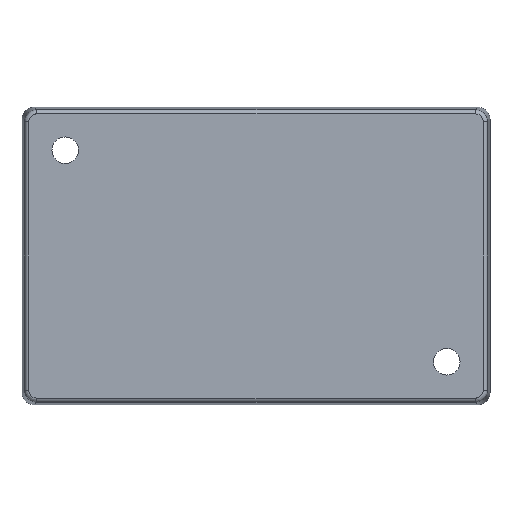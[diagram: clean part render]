
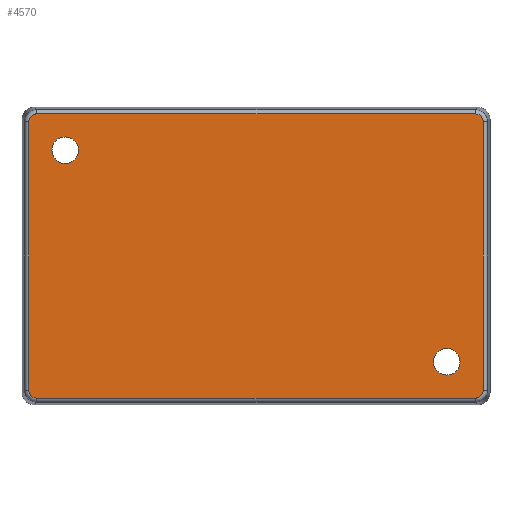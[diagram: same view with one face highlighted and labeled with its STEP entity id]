
A CAD part, front view. The second image highlights one B-rep face of the part: STEP entity #4570.
In plain terms, the highlighted planar face has unit normal (0, -1, 0).
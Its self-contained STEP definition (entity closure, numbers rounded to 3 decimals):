
#6 = FACE_OUTER_BOUND ( 'NONE', #5520, .T. ) ;
#261 = CARTESIAN_POINT ( 'NONE',  ( -23.6, -12.7, 13.08 ) ) ;
#565 = CARTESIAN_POINT ( 'NONE',  ( 23.6, -12.7, -13.08 ) ) ;
#599 = CARTESIAN_POINT ( 'NONE',  ( -27.131, -12.7, -17.58 ) ) ;
#619 = CARTESIAN_POINT ( 'NONE',  ( -28.13, -12.7, -16.581 ) ) ;
#706 = VERTEX_POINT ( 'NONE', #6199 ) ;
#769 = EDGE_CURVE ( 'NONE', #706, #5615, #6333, .T. ) ;
#779 = AXIS2_PLACEMENT_3D ( 'NONE', #2587, #5365, #1590 ) ;
#926 = CARTESIAN_POINT ( 'NONE',  ( -27.131, -12.7, 17.58 ) ) ;
#1197 = AXIS2_PLACEMENT_3D ( 'NONE', #4663, #8701, #3739 ) ;
#1340 = CARTESIAN_POINT ( 'NONE',  ( 28.13, -12.7, -16.581 ) ) ;
#1396 = EDGE_CURVE ( 'NONE', #11036, #5822, #6289, .T. ) ;
#1590 = DIRECTION ( 'NONE',  ( 0., 0., 1. ) ) ;
#1627 = CARTESIAN_POINT ( 'NONE',  ( 23.6, -12.7, -11.43 ) ) ;
#1695 = DIRECTION ( 'NONE',  ( 0., 1., 0. ) ) ;
#1747 = VECTOR ( 'NONE', #9764, 1000. ) ;
#1832 = LINE ( 'NONE', #11778, #1747 ) ;
#1897 = ORIENTED_EDGE ( 'NONE', *, *, #3756, .T. ) ;
#1905 = ORIENTED_EDGE ( 'NONE', *, *, #2387, .T. ) ;
#1975 = CARTESIAN_POINT ( 'NONE',  ( 27.131, -12.7, 17.58 ) ) ;
#1995 = ORIENTED_EDGE ( 'NONE', *, *, #2138, .T. ) ;
#2138 = EDGE_CURVE ( 'NONE', #12736, #9561, #12841, .T. ) ;
#2223 = EDGE_CURVE ( 'NONE', #12736, #5632, #6406, .T. ) ;
#2376 = ORIENTED_EDGE ( 'NONE', *, *, #769, .F. ) ;
#2377 = EDGE_CURVE ( 'NONE', #5273, #5615, #1832, .T. ) ;
#2387 = EDGE_CURVE ( 'NONE', #4043, #5168, #7679, .T. ) ;
#2587 = CARTESIAN_POINT ( 'NONE',  ( -23.6, -12.7, 13.08 ) ) ;
#2691 = CARTESIAN_POINT ( 'NONE',  ( -27.131, -12.7, 17.58 ) ) ;
#2776 =( BOUNDED_CURVE ( )  B_SPLINE_CURVE ( 3, ( #1975, #9316, #11050, #12243 ),
 .UNSPECIFIED., .F., .F. ) 
 B_SPLINE_CURVE_WITH_KNOTS ( ( 4, 4 ),
 ( 5.498, 7.068 ),
 .UNSPECIFIED. ) 
 CURVE ( )  GEOMETRIC_REPRESENTATION_ITEM ( )  RATIONAL_B_SPLINE_CURVE ( ( 1., 0.805, 0.805, 1. ) ) 
 REPRESENTATION_ITEM ( '' )  );
#2824 = DIRECTION ( 'NONE',  ( 0., 0., 1. ) ) ;
#3075 = PLANE ( 'NONE',  #8327 ) ;
#3601 = CARTESIAN_POINT ( 'NONE',  ( 28.617, -12.7, -17.58 ) ) ;
#3630 =( BOUNDED_CURVE ( )  B_SPLINE_CURVE ( 3, ( #8295, #5117, #9148, #5261 ),
 .UNSPECIFIED., .F., .F. ) 
 B_SPLINE_CURVE_WITH_KNOTS ( ( 4, 4 ),
 ( 5.498, 7.068 ),
 .UNSPECIFIED. ) 
 CURVE ( )  GEOMETRIC_REPRESENTATION_ITEM ( )  RATIONAL_B_SPLINE_CURVE ( ( 1., 0.805, 0.805, 1. ) ) 
 REPRESENTATION_ITEM ( '' )  );
#3676 = CIRCLE ( 'NONE', #9791, 1.65 ) ;
#3739 = DIRECTION ( 'NONE',  ( 0., 0., 1. ) ) ;
#3756 = EDGE_CURVE ( 'NONE', #5822, #11036, #3676, .T. ) ;
#3779 = CARTESIAN_POINT ( 'NONE',  ( 28.13, -12.7, 18.067 ) ) ;
#3905 = VERTEX_POINT ( 'NONE', #599 ) ;
#4043 = VERTEX_POINT ( 'NONE', #10192 ) ;
#4409 = VERTEX_POINT ( 'NONE', #619 ) ;
#4570 = ADVANCED_FACE ( 'NONE', ( #7182, #12076, #6 ), #3075, .F. ) ;
#4613 = DIRECTION ( 'NONE',  ( 0., 0., -1. ) ) ;
#4645 = EDGE_CURVE ( 'NONE', #3905, #4409, #3630, .T. ) ;
#4663 = CARTESIAN_POINT ( 'NONE',  ( 23.6, -12.7, -13.08 ) ) ;
#4673 = CARTESIAN_POINT ( 'NONE',  ( -28.13, -12.7, -18.067 ) ) ;
#5103 = CARTESIAN_POINT ( 'NONE',  ( 27.131, -12.7, -17.58 ) ) ;
#5117 = CARTESIAN_POINT ( 'NONE',  ( -27.716, -12.7, -17.58 ) ) ;
#5168 = VERTEX_POINT ( 'NONE', #1627 ) ;
#5190 = CARTESIAN_POINT ( 'NONE',  ( 0., -12.7, 0. ) ) ;
#5261 = CARTESIAN_POINT ( 'NONE',  ( -28.13, -12.7, -16.581 ) ) ;
#5273 = VERTEX_POINT ( 'NONE', #7845 ) ;
#5365 = DIRECTION ( 'NONE',  ( 0., 1., 0. ) ) ;
#5382 = DIRECTION ( 'NONE',  ( 0., 0., 1. ) ) ;
#5520 = EDGE_LOOP ( 'NONE', ( #2376, #11838, #11514, #12857, #8140, #1995, #5842, #8135 ) ) ;
#5523 = EDGE_CURVE ( 'NONE', #3905, #5632, #8363, .T. ) ;
#5599 = ORIENTED_EDGE ( 'NONE', *, *, #12156, .T. ) ;
#5615 = VERTEX_POINT ( 'NONE', #926 ) ;
#5632 = VERTEX_POINT ( 'NONE', #5103 ) ;
#5665 = CARTESIAN_POINT ( 'NONE',  ( -28.13, -12.7, 16.581 ) ) ;
#5822 = VERTEX_POINT ( 'NONE', #9728 ) ;
#5842 = ORIENTED_EDGE ( 'NONE', *, *, #8103, .F. ) ;
#6199 = CARTESIAN_POINT ( 'NONE',  ( -28.13, -12.7, 16.581 ) ) ;
#6225 = VECTOR ( 'NONE', #11853, 1000. ) ;
#6289 = CIRCLE ( 'NONE', #779, 1.65 ) ;
#6333 =( BOUNDED_CURVE ( )  B_SPLINE_CURVE ( 3, ( #5665, #12551, #8585, #2691 ),
 .UNSPECIFIED., .F., .T. ) 
 B_SPLINE_CURVE_WITH_KNOTS ( ( 4, 4 ),
 ( 5.498, 7.068 ),
 .UNSPECIFIED. ) 
 CURVE ( )  GEOMETRIC_REPRESENTATION_ITEM ( )  RATIONAL_B_SPLINE_CURVE ( ( 1., 0.805, 0.805, 1. ) ) 
 REPRESENTATION_ITEM ( '' )  );
#6406 =( BOUNDED_CURVE ( )  B_SPLINE_CURVE ( 3, ( #9113, #10246, #8132, #8004 ),
 .UNSPECIFIED., .F., .F. ) 
 B_SPLINE_CURVE_WITH_KNOTS ( ( 4, 4 ),
 ( 5.498, 7.068 ),
 .UNSPECIFIED. ) 
 CURVE ( )  GEOMETRIC_REPRESENTATION_ITEM ( )  RATIONAL_B_SPLINE_CURVE ( ( 1., 0.805, 0.805, 1. ) ) 
 REPRESENTATION_ITEM ( '' )  );
#6442 = VECTOR ( 'NONE', #6575, 1000. ) ;
#6575 = DIRECTION ( 'NONE',  ( 1., 0., 0. ) ) ;
#6798 = EDGE_LOOP ( 'NONE', ( #5599, #1905 ) ) ;
#7182 = FACE_BOUND ( 'NONE', #6798, .T. ) ;
#7541 = EDGE_LOOP ( 'NONE', ( #1897, #9967 ) ) ;
#7679 = CIRCLE ( 'NONE', #8936, 1.65 ) ;
#7845 = CARTESIAN_POINT ( 'NONE',  ( 27.131, -12.7, 17.58 ) ) ;
#8004 = CARTESIAN_POINT ( 'NONE',  ( 27.131, -12.7, -17.58 ) ) ;
#8059 = CARTESIAN_POINT ( 'NONE',  ( 28.13, -12.7, 16.581 ) ) ;
#8103 = EDGE_CURVE ( 'NONE', #5273, #9561, #2776, .T. ) ;
#8132 = CARTESIAN_POINT ( 'NONE',  ( 27.716, -12.7, -17.58 ) ) ;
#8135 = ORIENTED_EDGE ( 'NONE', *, *, #2377, .T. ) ;
#8140 = ORIENTED_EDGE ( 'NONE', *, *, #2223, .F. ) ;
#8295 = CARTESIAN_POINT ( 'NONE',  ( -27.131, -12.7, -17.58 ) ) ;
#8327 = AXIS2_PLACEMENT_3D ( 'NONE', #5190, #9222, #11082 ) ;
#8363 = LINE ( 'NONE', #3601, #6442 ) ;
#8396 = CIRCLE ( 'NONE', #1197, 1.65 ) ;
#8585 = CARTESIAN_POINT ( 'NONE',  ( -27.716, -12.7, 17.58 ) ) ;
#8701 = DIRECTION ( 'NONE',  ( 0., 1., 0. ) ) ;
#8936 = AXIS2_PLACEMENT_3D ( 'NONE', #565, #1695, #2824 ) ;
#9113 = CARTESIAN_POINT ( 'NONE',  ( 28.13, -12.7, -16.581 ) ) ;
#9148 = CARTESIAN_POINT ( 'NONE',  ( -28.13, -12.7, -17.166 ) ) ;
#9222 = DIRECTION ( 'NONE',  ( 0., 1., 0. ) ) ;
#9316 = CARTESIAN_POINT ( 'NONE',  ( 27.716, -12.7, 17.58 ) ) ;
#9561 = VERTEX_POINT ( 'NONE', #8059 ) ;
#9700 = EDGE_CURVE ( 'NONE', #706, #4409, #10767, .T. ) ;
#9728 = CARTESIAN_POINT ( 'NONE',  ( -23.6, -12.7, 14.73 ) ) ;
#9764 = DIRECTION ( 'NONE',  ( -1., 0., 0. ) ) ;
#9791 = AXIS2_PLACEMENT_3D ( 'NONE', #261, #12527, #5382 ) ;
#9967 = ORIENTED_EDGE ( 'NONE', *, *, #1396, .T. ) ;
#10192 = CARTESIAN_POINT ( 'NONE',  ( 23.6, -12.7, -14.73 ) ) ;
#10246 = CARTESIAN_POINT ( 'NONE',  ( 28.13, -12.7, -17.166 ) ) ;
#10767 = LINE ( 'NONE', #4673, #11323 ) ;
#11036 = VERTEX_POINT ( 'NONE', #12203 ) ;
#11050 = CARTESIAN_POINT ( 'NONE',  ( 28.13, -12.7, 17.166 ) ) ;
#11082 = DIRECTION ( 'NONE',  ( 1., 0., 0. ) ) ;
#11323 = VECTOR ( 'NONE', #4613, 1000. ) ;
#11514 = ORIENTED_EDGE ( 'NONE', *, *, #4645, .F. ) ;
#11778 = CARTESIAN_POINT ( 'NONE',  ( -28.617, -12.7, 17.58 ) ) ;
#11838 = ORIENTED_EDGE ( 'NONE', *, *, #9700, .T. ) ;
#11853 = DIRECTION ( 'NONE',  ( 0., 0., 1. ) ) ;
#12076 = FACE_BOUND ( 'NONE', #7541, .T. ) ;
#12156 = EDGE_CURVE ( 'NONE', #5168, #4043, #8396, .T. ) ;
#12203 = CARTESIAN_POINT ( 'NONE',  ( -23.6, -12.7, 11.43 ) ) ;
#12243 = CARTESIAN_POINT ( 'NONE',  ( 28.13, -12.7, 16.581 ) ) ;
#12527 = DIRECTION ( 'NONE',  ( 0., 1., 0. ) ) ;
#12551 = CARTESIAN_POINT ( 'NONE',  ( -28.13, -12.7, 17.166 ) ) ;
#12736 = VERTEX_POINT ( 'NONE', #1340 ) ;
#12841 = LINE ( 'NONE', #3779, #6225 ) ;
#12857 = ORIENTED_EDGE ( 'NONE', *, *, #5523, .T. ) ;
